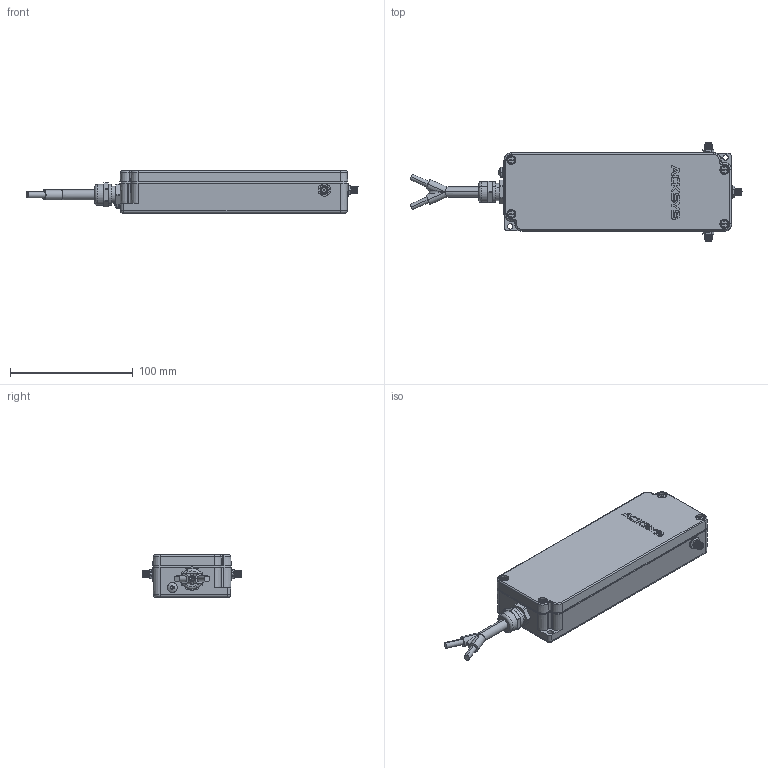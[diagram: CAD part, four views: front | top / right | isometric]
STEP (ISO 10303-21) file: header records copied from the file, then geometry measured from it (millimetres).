
FILE_DESCRIPTION((''),'2;1');
FILE_NAME('WLn-xROAD_3D.stp','2013-01-09T11:57:10',(''),(''),'Mechanical Desktop 2011','Mechanical Desktop 2011',', , ');
FILE_SCHEMA(('CONFIG_CONTROL_DESIGN'));
Length unit declared in the file: millimetre
Products named in the file (10): Product; A$C31EF4F92; A$C672A424C; 1_ASM_ROSE_01_06_19_00; 2_PART_ROSE_01_06_19_00_H; 3_PART_ROSE_01_06_19_00_C; 4_PART_ROSE_01_06_19_00_S; 5_PART_ROSE_01_06_19_00_S; 6_PART_ROSE_01_06_19_00_S; 7_PART_ROSE_01_06_19_00_S
Assembly tree (11 placements, depth 3):
  Product
    A$C31EF4F92  x3
    A$C672A424C
    1_ASM_ROSE_01_06_19_00
      2_PART_ROSE_01_06_19_00_H
      3_PART_ROSE_01_06_19_00_C
      4_PART_ROSE_01_06_19_00_S
      5_PART_ROSE_01_06_19_00_S
      6_PART_ROSE_01_06_19_00_S
      7_PART_ROSE_01_06_19_00_S
Bounding box: 270.43 x 80.8 x 34.7 mm (x, y, z)
Volume: 129885 mm3; surface area: 91453.9 mm2
Topology: 34 solids, 34 shells, 2709 faces, 7463 edges, 4834 vertices
Faces by surface type: plane 2024, cone 296, cylinder 218, bspline 136, torus 34, sphere 1
Entity records: 83268 total; most frequent: CARTESIAN_POINT 18847, ORIENTED_EDGE 14006, DIRECTION 12300, EDGE_CURVE 7003, VECTOR 6066, LINE 6066, VERTEX_POINT 4585, AXIS2_PLACEMENT_3D 3117
